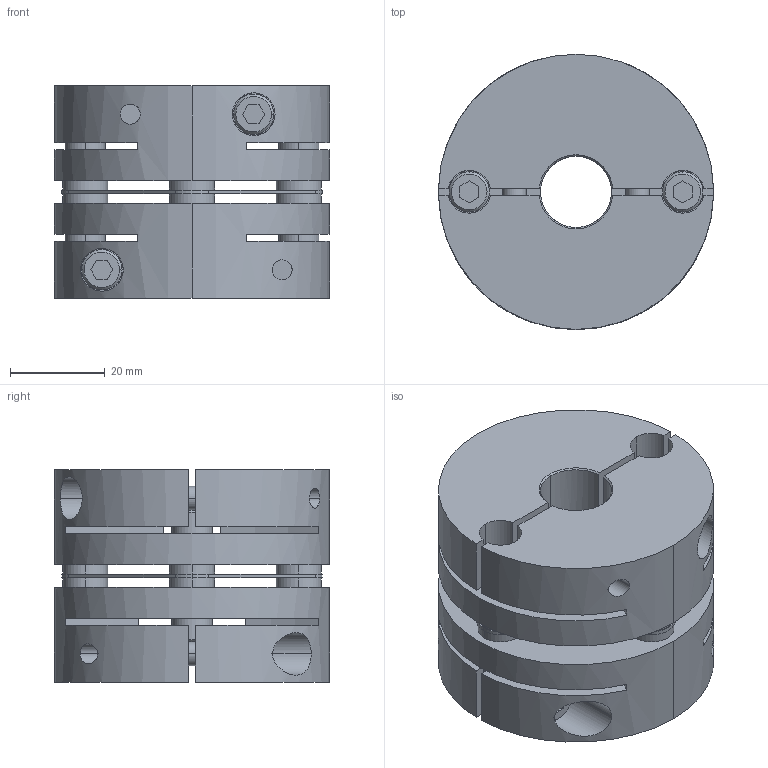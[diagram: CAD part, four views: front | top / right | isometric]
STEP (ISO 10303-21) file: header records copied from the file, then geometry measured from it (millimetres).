
FILE_DESCRIPTION((''),'2;1');
FILE_NAME('LAS-58C-15×25.stp','2015-10-15T14:49:15',(''),(''),'AutoCAD STEP 2000i','AutoCAD 2000i',', , ');
FILE_SCHEMA(('CONFIG_CONTROL_DESIGN'));
Length unit declared in the file: millimetre
Products named in the file (6): LAS-58C-12×19; 忣兜1; LA-5802-D19; LA-5802-D12-1; LA-5802-D12; LAS58-ITA
Assembly tree (5 placements, depth 2):
  LAS-58C-12×19
    忣兜1
    LA-5802-D19
    LA-5802-D12-1
    LA-5802-D12
    LAS58-ITA
Bounding box: 58 x 58 x 44.8 mm (x, y, z)
Volume: 83384.8 mm3; surface area: 32807.7 mm2
Topology: 1 solids, 1 shells, 238 faces, 618 edges, 404 vertices
Faces by surface type: plane 114, cylinder 96, cone 28
Entity records: 8213 total; most frequent: CARTESIAN_POINT 1988, DIRECTION 1316, ORIENTED_EDGE 1240, EDGE_CURVE 620, AXIS2_PLACEMENT_3D 484, VERTEX_POINT 404, VECTOR 348, LINE 348
